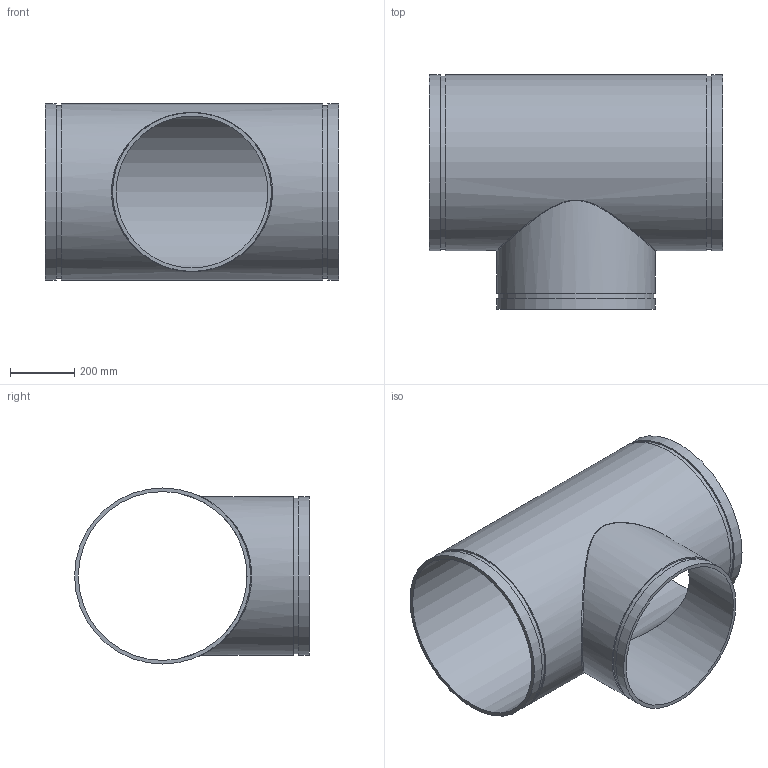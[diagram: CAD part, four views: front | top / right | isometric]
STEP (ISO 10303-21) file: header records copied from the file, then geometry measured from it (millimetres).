
FILE_DESCRIPTION(/* description */ ('VIC REDUCING TEE No 25-C','CAx-IF Rec.Pracs.---Representation and Presentation of Product Manufacturing Information (PMI)---4.0---2014-10-13'),/* implementation_level */ '2;1');
FILE_NAME(/* name */ 'C:\Users\Vjadhav\AppData\Roaming\Autodesk\ApplicationPlugins\Back Up\Victaulic_AWWA_Tee Reducing_No 25-C (DRG)\Victaulic_AWWA_Tee Reducing_No 25-C (DRG)_20.0x18.0 (500x450).stp',/* time_stamp */ '2020-08-18T18:18:48+06:00',/* author */ ('CORINNE GRAY'),/* organization */ ('Victaulic'),/* preprocessor_version */ 'ST-DEVELOPER v17.2',/* originating_system */ 'Autodesk Inventor 2019',/* authorisation */ '');
FILE_SCHEMA (('AP242_MANAGED_MODEL_BASED_3D_ENGINEERING_MIM_LF { 1 0 10303 442 1 1 4 }'));
Length unit declared in the file: inch
Products named in the file (1): 25C-20.0x18.0
Bounding box: 914.4 x 731.52 x 548.64 mm (x, y, z)
Volume: 19181825.6 mm3; surface area: 3541386.2 mm2
Topology: 1 solids, 1 shells, 20 faces, 44 edges, 33 vertices
Faces by surface type: cylinder 10, plane 9, bspline 1
Full cylindrical faces by diameter (mm): 472.948 x1, 485.775 x1, 495.3 x2, 525.78 x1, 538.963 x2, 548.64 x3
Entity records: 1199 total; most frequent: CARTESIAN_POINT 575, DIRECTION 135, ORIENTED_EDGE 90, AXIS2_PLACEMENT_3D 62, EDGE_CURVE 45, VERTEX_POINT 34, EDGE_LOOP 31, CIRCLE 29
